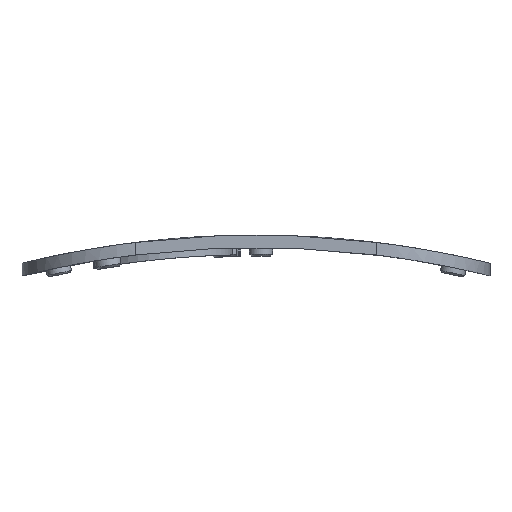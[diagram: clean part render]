
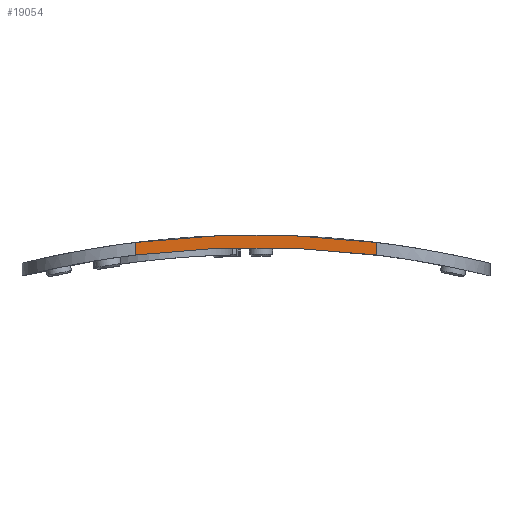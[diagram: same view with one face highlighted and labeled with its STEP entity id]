
A CAD part, front view. The second image highlights one B-rep face of the part: STEP entity #19054.
In plain terms, the highlighted planar face has unit normal (0, -1, 0).
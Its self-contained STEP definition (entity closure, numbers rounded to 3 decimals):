
#71 = CYLINDRICAL_SURFACE('',#72,111.371);
#72 = AXIS2_PLACEMENT_3D('',#73,#74,#75);
#73 = CARTESIAN_POINT('',(53.19,0.,-111.371));
#74 = DIRECTION('',(0.,-1.,0.));
#75 = DIRECTION('',(1.,0.,0.));
#98 = CYLINDRICAL_SURFACE('',#99,12.8);
#99 = AXIS2_PLACEMENT_3D('',#100,#101,#102);
#100 = CARTESIAN_POINT('',(39.64,8.32,2.));
#101 = DIRECTION('',(0.,0.,1.));
#102 = DIRECTION('',(1.,0.,0.));
#123 = CYLINDRICAL_SURFACE('',#124,109.971);
#124 = AXIS2_PLACEMENT_3D('',#125,#126,#127);
#125 = CARTESIAN_POINT('',(53.19,0.,-111.371));
#126 = DIRECTION('',(0.,-1.,0.));
#127 = DIRECTION('',(1.,0.,0.));
#280 = VERTEX_POINT('',#281);
#281 = CARTESIAN_POINT('',(39.64,-4.48,-2.238));
#407 = EDGE_CURVE('',#280,#408,#410,.T.);
#408 = VERTEX_POINT('',#409);
#409 = CARTESIAN_POINT('',(66.74,-4.48,-2.238));
#410 = SURFACE_CURVE('',#411,(#416,#423),.PCURVE_S1.);
#411 = CIRCLE('',#412,109.971);
#412 = AXIS2_PLACEMENT_3D('',#413,#414,#415);
#413 = CARTESIAN_POINT('',(53.19,-4.48,-111.371));
#414 = DIRECTION('',(-0.,1.,0.));
#415 = DIRECTION('',(1.,0.,0.));
#416 = PCURVE('',#123,#417);
#417 = DEFINITIONAL_REPRESENTATION('',(#418),#422);
#418 = LINE('',#419,#420);
#419 = CARTESIAN_POINT('',(6.283,4.48));
#420 = VECTOR('',#421,1.);
#421 = DIRECTION('',(-1.,-0.));
#422 = ( GEOMETRIC_REPRESENTATION_CONTEXT(2) 
PARAMETRIC_REPRESENTATION_CONTEXT() REPRESENTATION_CONTEXT('2D SPACE',''
  ) );
#423 = PCURVE('',#424,#429);
#424 = PLANE('',#425);
#425 = AXIS2_PLACEMENT_3D('',#426,#427,#428);
#426 = CARTESIAN_POINT('',(39.64,-4.48,2.));
#427 = DIRECTION('',(0.,-1.,0.));
#428 = DIRECTION('',(1.,0.,0.));
#429 = DEFINITIONAL_REPRESENTATION('',(#430),#438);
#430 = ( BOUNDED_CURVE() B_SPLINE_CURVE(2,(#431,#432,#433,#434,#435,#436
,#437),.UNSPECIFIED.,.T.,.F.) B_SPLINE_CURVE_WITH_KNOTS((1,2,2,2,2,1),(
    -2.094,0.,2.094,4.189,6.283,
8.378),.UNSPECIFIED.) CURVE() GEOMETRIC_REPRESENTATION_ITEM() 
RATIONAL_B_SPLINE_CURVE((1.,0.5,1.,0.5,1.,0.5,1.)) REPRESENTATION_ITEM(
  '') );
#431 = CARTESIAN_POINT('',(123.521,-113.371));
#432 = CARTESIAN_POINT('',(123.521,-303.848));
#433 = CARTESIAN_POINT('',(-41.436,-208.609));
#434 = CARTESIAN_POINT('',(-206.393,-113.371));
#435 = CARTESIAN_POINT('',(-41.436,-18.133));
#436 = CARTESIAN_POINT('',(123.521,77.105));
#437 = CARTESIAN_POINT('',(123.521,-113.371));
#438 = ( GEOMETRIC_REPRESENTATION_CONTEXT(2) 
PARAMETRIC_REPRESENTATION_CONTEXT() REPRESENTATION_CONTEXT('2D SPACE',''
  ) );
#489 = CYLINDRICAL_SURFACE('',#490,12.8);
#490 = AXIS2_PLACEMENT_3D('',#491,#492,#493);
#491 = CARTESIAN_POINT('',(66.74,8.32,2.));
#492 = DIRECTION('',(0.,0.,1.));
#493 = DIRECTION('',(1.,0.,0.));
#10547 = VERTEX_POINT('',#10548);
#10548 = CARTESIAN_POINT('',(39.64,-4.48,-0.827));
#10676 = EDGE_CURVE('',#10547,#280,#10677,.T.);
#10677 = SURFACE_CURVE('',#10678,(#10682,#10689),.PCURVE_S1.);
#10678 = LINE('',#10679,#10680);
#10679 = CARTESIAN_POINT('',(39.64,-4.48,2.));
#10680 = VECTOR('',#10681,1.);
#10681 = DIRECTION('',(-0.,-0.,-1.));
#10682 = PCURVE('',#98,#10683);
#10683 = DEFINITIONAL_REPRESENTATION('',(#10684),#10688);
#10684 = LINE('',#10685,#10686);
#10685 = CARTESIAN_POINT('',(4.712,0.));
#10686 = VECTOR('',#10687,1.);
#10687 = DIRECTION('',(0.,-1.));
#10688 = ( GEOMETRIC_REPRESENTATION_CONTEXT(2) 
PARAMETRIC_REPRESENTATION_CONTEXT() REPRESENTATION_CONTEXT('2D SPACE',''
  ) );
#10689 = PCURVE('',#424,#10690);
#10690 = DEFINITIONAL_REPRESENTATION('',(#10691),#10695);
#10691 = LINE('',#10692,#10693);
#10692 = CARTESIAN_POINT('',(0.,0.));
#10693 = VECTOR('',#10694,1.);
#10694 = DIRECTION('',(0.,-1.));
#10695 = ( GEOMETRIC_REPRESENTATION_CONTEXT(2) 
PARAMETRIC_REPRESENTATION_CONTEXT() REPRESENTATION_CONTEXT('2D SPACE',''
  ) );
#10701 = EDGE_CURVE('',#10547,#10702,#10704,.T.);
#10702 = VERTEX_POINT('',#10703);
#10703 = CARTESIAN_POINT('',(66.74,-4.48,-0.827));
#10704 = SURFACE_CURVE('',#10705,(#10710,#10717),.PCURVE_S1.);
#10705 = CIRCLE('',#10706,111.371);
#10706 = AXIS2_PLACEMENT_3D('',#10707,#10708,#10709);
#10707 = CARTESIAN_POINT('',(53.19,-4.48,-111.371));
#10708 = DIRECTION('',(-0.,1.,0.));
#10709 = DIRECTION('',(1.,0.,0.));
#10710 = PCURVE('',#71,#10711);
#10711 = DEFINITIONAL_REPRESENTATION('',(#10712),#10716);
#10712 = LINE('',#10713,#10714);
#10713 = CARTESIAN_POINT('',(6.283,4.48));
#10714 = VECTOR('',#10715,1.);
#10715 = DIRECTION('',(-1.,-0.));
#10716 = ( GEOMETRIC_REPRESENTATION_CONTEXT(2) 
PARAMETRIC_REPRESENTATION_CONTEXT() REPRESENTATION_CONTEXT('2D SPACE',''
  ) );
#10717 = PCURVE('',#424,#10718);
#10718 = DEFINITIONAL_REPRESENTATION('',(#10719),#10727);
#10719 = ( BOUNDED_CURVE() B_SPLINE_CURVE(2,(#10720,#10721,#10722,#10723
    ,#10724,#10725,#10726),.UNSPECIFIED.,.T.,.F.) 
B_SPLINE_CURVE_WITH_KNOTS((1,2,2,2,2,1),(-2.094,0.,
    2.094,4.189,6.283,8.378),
.UNSPECIFIED.) CURVE() GEOMETRIC_REPRESENTATION_ITEM() 
RATIONAL_B_SPLINE_CURVE((1.,0.5,1.,0.5,1.,0.5,1.)) REPRESENTATION_ITEM(
  '') );
#10720 = CARTESIAN_POINT('',(124.921,-113.371));
#10721 = CARTESIAN_POINT('',(124.921,-306.272));
#10722 = CARTESIAN_POINT('',(-42.136,-209.822));
#10723 = CARTESIAN_POINT('',(-209.193,-113.371));
#10724 = CARTESIAN_POINT('',(-42.136,-16.921));
#10725 = CARTESIAN_POINT('',(124.921,79.53));
#10726 = CARTESIAN_POINT('',(124.921,-113.371));
#10727 = ( GEOMETRIC_REPRESENTATION_CONTEXT(2) 
PARAMETRIC_REPRESENTATION_CONTEXT() REPRESENTATION_CONTEXT('2D SPACE',''
  ) );
#19054 = ADVANCED_FACE('',(#19055),#424,.T.);
#19055 = FACE_BOUND('',#19056,.T.);
#19056 = EDGE_LOOP('',(#19057,#19058,#19059,#19060));
#19057 = ORIENTED_EDGE('',*,*,#10701,.F.);
#19058 = ORIENTED_EDGE('',*,*,#10676,.T.);
#19059 = ORIENTED_EDGE('',*,*,#407,.T.);
#19060 = ORIENTED_EDGE('',*,*,#19061,.F.);
#19061 = EDGE_CURVE('',#10702,#408,#19062,.T.);
#19062 = SURFACE_CURVE('',#19063,(#19067,#19074),.PCURVE_S1.);
#19063 = LINE('',#19064,#19065);
#19064 = CARTESIAN_POINT('',(66.74,-4.48,2.));
#19065 = VECTOR('',#19066,1.);
#19066 = DIRECTION('',(-0.,-0.,-1.));
#19067 = PCURVE('',#424,#19068);
#19068 = DEFINITIONAL_REPRESENTATION('',(#19069),#19073);
#19069 = LINE('',#19070,#19071);
#19070 = CARTESIAN_POINT('',(27.1,0.));
#19071 = VECTOR('',#19072,1.);
#19072 = DIRECTION('',(0.,-1.));
#19073 = ( GEOMETRIC_REPRESENTATION_CONTEXT(2) 
PARAMETRIC_REPRESENTATION_CONTEXT() REPRESENTATION_CONTEXT('2D SPACE',''
  ) );
#19074 = PCURVE('',#489,#19075);
#19075 = DEFINITIONAL_REPRESENTATION('',(#19076),#19080);
#19076 = LINE('',#19077,#19078);
#19077 = CARTESIAN_POINT('',(4.712,0.));
#19078 = VECTOR('',#19079,1.);
#19079 = DIRECTION('',(0.,-1.));
#19080 = ( GEOMETRIC_REPRESENTATION_CONTEXT(2) 
PARAMETRIC_REPRESENTATION_CONTEXT() REPRESENTATION_CONTEXT('2D SPACE',''
  ) );
